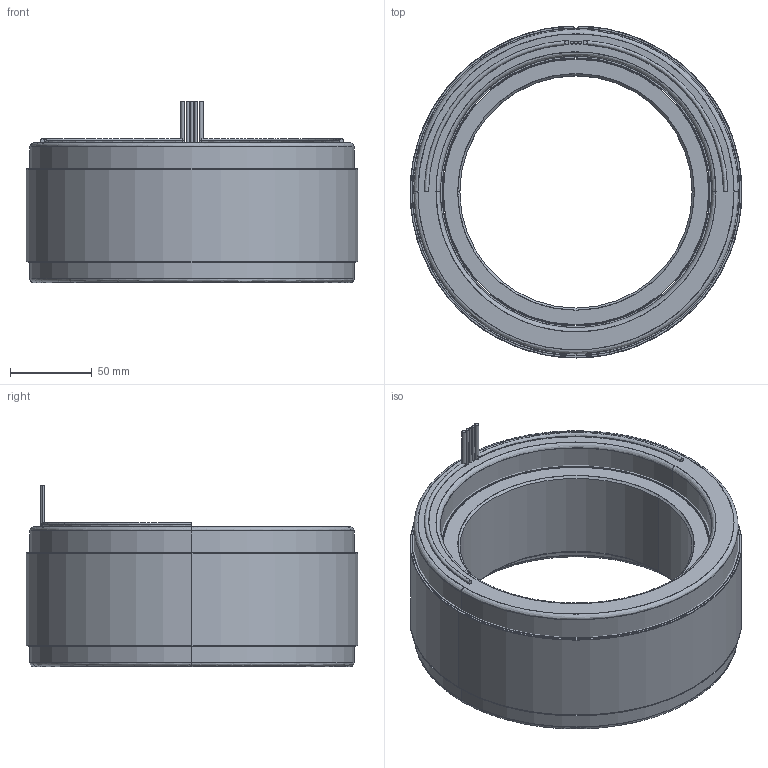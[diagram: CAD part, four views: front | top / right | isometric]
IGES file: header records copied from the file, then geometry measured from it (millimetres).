
Start section: SolidWorks IGES file using analytic representation for surfaces
Global section: file name: Z:\STANDARD STATOR ROTOR SETS\NEW DIRECT DRIVE MOTOR\8 OD 36S32P\6100326-04.IGS; native system: SolidWorks 2016; preprocessor: SolidWorks 2016; author: eng; date: 191023.162537; units: millimetre
Bounding box: 203.2 x 203.19 x 111 mm (x, y, z)
Surface area: 357512.2 mm2 (no closed solid volume)
Topology: 0 solids, 0 shells, 94 faces, 2568 edges, 2568 vertices
Faces by surface type: revolution 54, bspline 40
